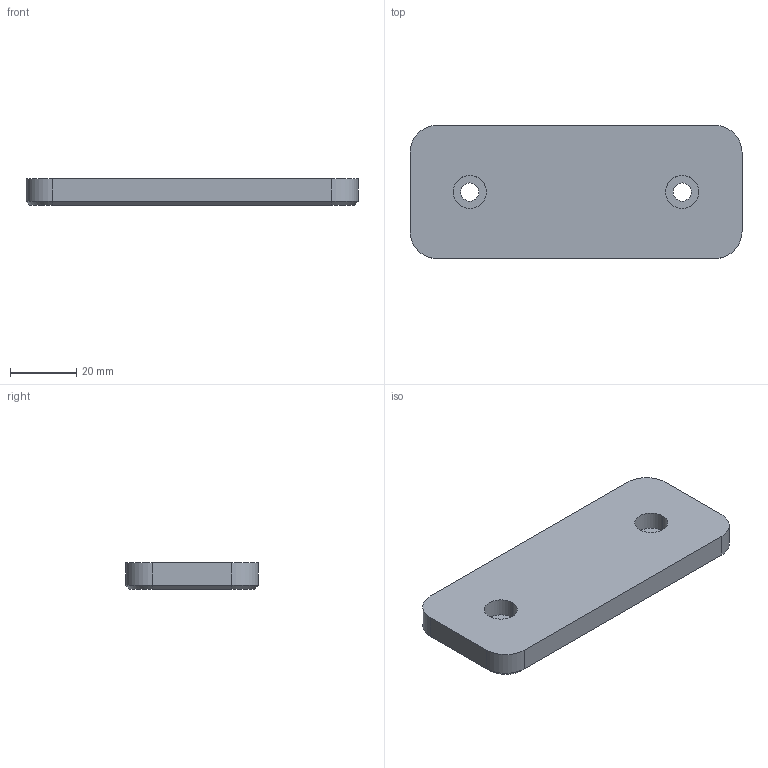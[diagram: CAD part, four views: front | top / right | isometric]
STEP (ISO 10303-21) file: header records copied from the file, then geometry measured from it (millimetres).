
FILE_DESCRIPTION (( 'STEP AP214' ), '1' );
FILE_NAME ('F2680_04010008.STEP', '2024-09-10T07:33:22', ( '' ), ( '' ), 'SwSTEP 2.0', 'SolidWorks 2014', '' );
FILE_SCHEMA (( 'AUTOMOTIVE_DESIGN' ));
Length unit declared in the file: millimetre
Products named in the file (1): F2680_04010008
Bounding box: 100 x 40 x 8.1 mm (x, y, z)
Volume: 30777.6 mm3; surface area: 10198.2 mm2
Topology: 1 solids, 1 shells, 28 faces, 64 edges, 40 vertices
Faces by surface type: cylinder 12, plane 12, cone 4
Entity records: 834 total; most frequent: DIRECTION 150, CARTESIAN_POINT 133, ORIENTED_EDGE 128, EDGE_CURVE 64, AXIS2_PLACEMENT_3D 57, VERTEX_POINT 40, LINE 36, VECTOR 36
